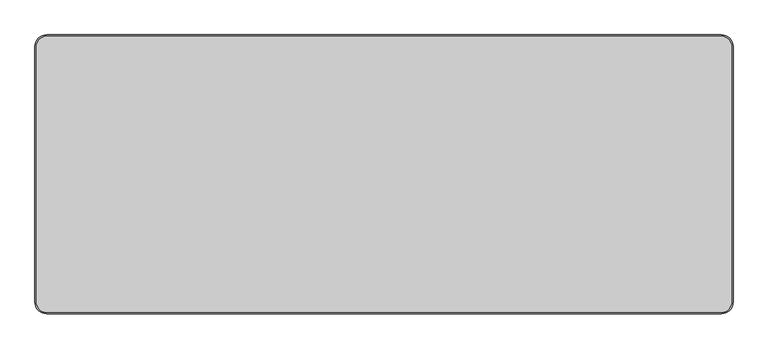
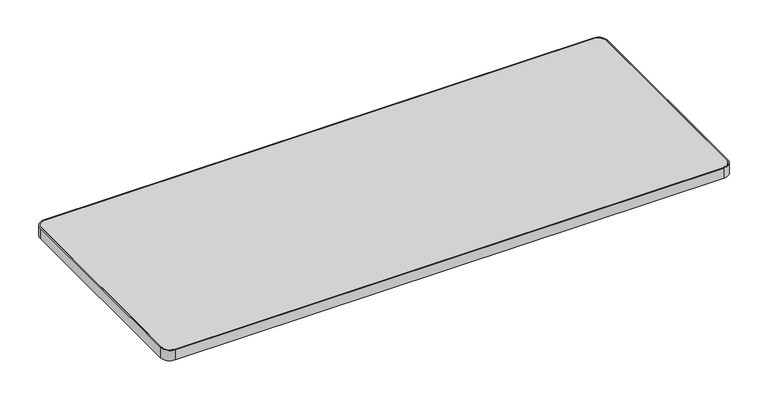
"""IFC4 building model written with IfcOpenShell, lengths in millimetres: furniture geometry, Steelcase - Groupwork - Table - Top - Rectangular : 24D x 60W - HPL."""

from ifc_helpers import new_model, si_unit, point, frame, frame_2d, origin, place, context, project, spatial, polyline, circle_curve, trimmed, segment, composite_curve, outline, extrude, source, transform, mapped, element, save


def furniture_dabab4df(model_context):
    return source(origin(), model_context, "Body", "SweptSolid", [
        extrude(outline(composite_curve([segment(polyline([(-764.54, 301.8), (707.74, 301.8)]), True, "CONTINUOUS"), segment(trimmed(circle_curve(frame_2d((707.74, 278.94)), 22.86), [point((707.74, 301.8))], [point((730.6, 278.94))], False, "CARTESIAN"), True, "CONTINUOUS"), segment(polyline([(730.6, 278.94), (730.6, -278.94)]), True, "CONTINUOUS"), segment(trimmed(circle_curve(frame_2d((707.74, -278.94)), 22.86), [point((730.6, -278.94))], [point((707.74, -301.8))], False, "CARTESIAN"), True, "CONTINUOUS"), segment(polyline([(707.74, -301.8), (-764.54, -301.8)]), True, "CONTINUOUS"), segment(trimmed(circle_curve(frame_2d((-764.54, -278.94)), 22.86), [point((-764.54, -301.8))], [point((-787.4, -278.94))], False, "CARTESIAN"), True, "CONTINUOUS"), segment(polyline([(-787.4, -278.94), (-787.4, 278.94)]), True, "CONTINUOUS"), segment(trimmed(circle_curve(frame_2d((-764.54, 278.94)), 22.86), [point((-787.4, 278.94))], [point((-764.54, 301.8))], False, "CARTESIAN"), True, "CONTINUOUS")], self_intersect=False)), frame((0.0, 0.0, 694.944), z_axis=(0.0, 0.0, 1.0), x_axis=(1.0, 0.0, 0.0)), (0.0, 0.0, 1.0), 28.956),
        extrude(outline(composite_curve([segment(trimmed(circle_curve(frame_2d((708.1385373, 279.3385373)), 25.4614627), [point((708.1385373, 304.8))], [point((733.6, 279.3385373))], False, "CARTESIAN"), True, "CONTINUOUS"), segment(polyline([(733.6, 279.3385373), (733.6, -279.4211297)]), True, "CONTINUOUS"), segment(trimmed(circle_curve(frame_2d((708.2211297, -279.4211297)), 25.3788703), [point((733.6, -279.4211297))], [point((708.2211297, -304.8))], False, "CARTESIAN"), True, "CONTINUOUS"), segment(polyline([(708.2211297, -304.8), (-765.0, -304.8)]), True, "CONTINUOUS"), segment(trimmed(circle_curve(frame_2d((-765.0, -279.4)), 25.4), [point((-765.0, -304.8))], [point((-790.4, -279.4))], False, "CARTESIAN"), True, "CONTINUOUS"), segment(polyline([(-790.4, -279.4), (-790.4, 279.4)]), True, "CONTINUOUS"), segment(trimmed(circle_curve(frame_2d((-765.0, 279.4)), 25.4), [point((-790.4, 279.4))], [point((-765.0, 304.8))], False, "CARTESIAN"), True, "CONTINUOUS"), segment(polyline([(-765.0, 304.8), (708.1385373, 304.8)]), True, "CONTINUOUS")], self_intersect=False), holes=[composite_curve([segment(polyline([(707.8064662, 301.8), (-764.54, 301.8)]), True, "CONTINUOUS"), segment(trimmed(circle_curve(frame_2d((-764.54, 278.94)), 22.86), [point((-764.54, 301.8))], [point((-787.4, 278.94))], True, "CARTESIAN"), True, "CONTINUOUS"), segment(polyline([(-787.4, 278.94), (-787.4, -278.94)]), True, "CONTINUOUS"), segment(trimmed(circle_curve(frame_2d((-764.54, -278.94)), 22.86), [point((-787.4, -278.94))], [point((-764.54, -301.8))], True, "CARTESIAN"), True, "CONTINUOUS"), segment(polyline([(-764.54, -301.8), (707.573488, -301.8)]), True, "CONTINUOUS"), segment(trimmed(circle_curve(frame_2d((707.573488, -278.773488)), 23.026512), [point((707.573488, -301.8))], [point((730.6, -278.773488))], True, "CARTESIAN"), True, "CONTINUOUS"), segment(polyline([(730.6, -278.773488), (730.6, 279.0064662)]), True, "CONTINUOUS"), segment(trimmed(circle_curve(frame_2d((707.8064662, 279.0064662)), 22.7935338), [point((730.6, 279.0064662))], [point((707.8064662, 301.8))], True, "CARTESIAN"), True, "CONTINUOUS")], self_intersect=False)]), frame((0.0, 0.0, 694.944), z_axis=(0.0, 0.0, 1.0), x_axis=(1.0, 0.0, 0.0)), (0.0, 0.0, 1.0), 28.956),
    ])


if __name__ == "__main__":
    model = new_model("IFC4")
    model_context = context("Model", 3, world=origin())
    ifc_project = project(units=[si_unit("LENGTHUNIT", "METRE", prefix="MILLI")], contexts=[model_context])
    site = spatial("IfcSite", under=ifc_project)
    building = spatial("IfcBuilding", under=site)
    placement = place(None, origin())
    furniture_shape = furniture_dabab4df(model_context)
    element("IfcFurniture", 1, ObjectType="Steelcase - Groupwork - Table - Top - Rectangular : 24D x 60W - HPL", at=placement, inside=building, context=model_context, shape_type="MappedRepresentation", body=[
        mapped(furniture_shape, transform((0.0, 0.0, 0.0), x_axis=(1.0, 0.0, 0.0), y_axis=(0.0, 1.0, 0.0), z_axis=(0.0, 0.0, 1.0))),
    ])
    save(model, "model.ifc")
